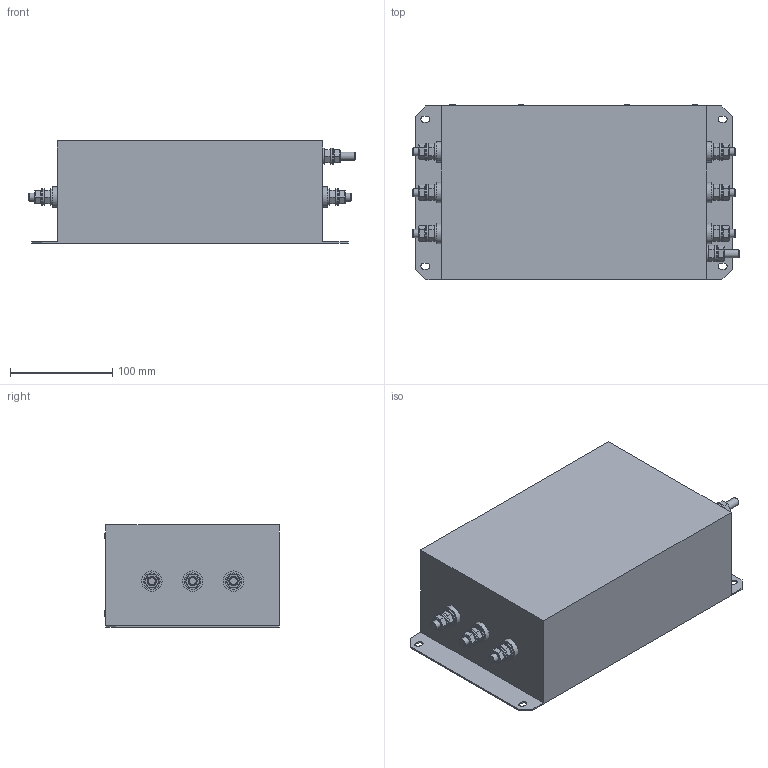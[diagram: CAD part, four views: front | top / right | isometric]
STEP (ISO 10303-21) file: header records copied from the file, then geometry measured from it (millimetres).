
FILE_DESCRIPTION(('STEP AP203'), '1');
FILE_NAME('IEF 55_113-4 捘', '', ('UNSPECIFIED'), ('UNSPECIFIED'), 'C3D Converter', 'C3D Toolkit', '');
FILE_SCHEMA(('CONFIG_CONTROL_DESIGN'));
Length unit declared in the file: millimetre
Products named in the file (6): IEF 55_113-4
Assembly tree (58 placements, depth 2):
  IEF 55_113-4
    IEF 55_113-4
    IEF 55_113-4  x6
    IEF 55_113-4  x21
    IEF 55_113-4  x14
    IEF 55_113-4  x16
Bounding box: 320 x 171.3 x 100 mm (x, y, z)
Volume: 4463737.9 mm3; surface area: 220791.2 mm2
Topology: 58 solids, 58 shells, 577 faces, 1111 edges, 673 vertices
Faces by surface type: plane 411, cylinder 115, cone 35, torus 16
Full cylindrical faces by diameter (mm): 1.5 x16, 2.25 x16, 8 x48, 16 x21, 20 x6
Entity records: 4359 total; most frequent: DIRECTION 514, CARTESIAN_POINT 431, ORIENTED_EDGE 330, AXIS2_PLACEMENT_3D 202, EDGE_CURVE 165, EDGE_LOOP 136, DATE_AND_TIME 128, CALENDAR_DATE 128
